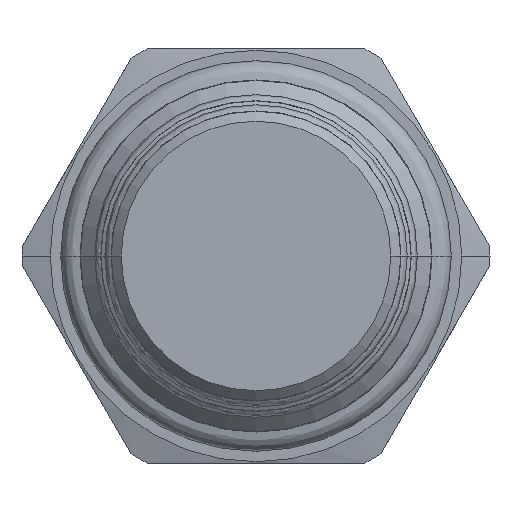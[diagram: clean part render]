
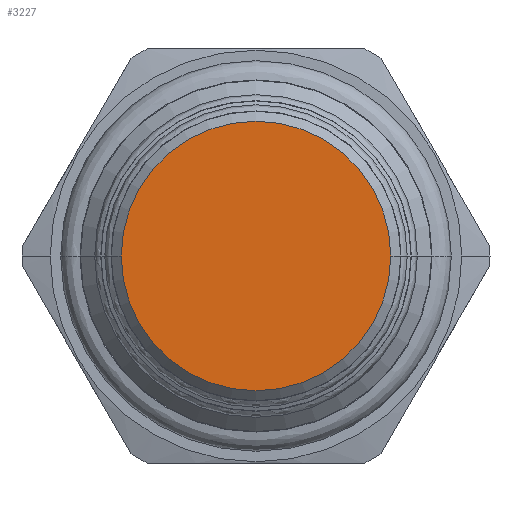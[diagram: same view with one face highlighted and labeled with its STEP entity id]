
A CAD part, front view. The second image highlights one B-rep face of the part: STEP entity #3227.
In plain terms, the highlighted planar face has unit normal (0, -1, 0).
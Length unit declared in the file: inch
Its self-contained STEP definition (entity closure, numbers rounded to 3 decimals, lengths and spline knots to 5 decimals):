
#1231=CARTESIAN_POINT('',(0.,-2.78,0.));
#1232=DIRECTION('',(0.,1.,0.));
#1233=DIRECTION('',(-1.,0.,0.));
#1234=AXIS2_PLACEMENT_3D('',#1231,#1232,#1233);
#1249=CARTESIAN_POINT('',(0.,-2.78,0.));
#1250=DIRECTION('',(0.,-1.,0.));
#1251=DIRECTION('',(-1.,0.,0.));
#1252=AXIS2_PLACEMENT_3D('',#1249,#1250,#1251);
#1357=CARTESIAN_POINT('',(-0.406,-2.78,0.));
#1358=CARTESIAN_POINT('',(0.406,-2.78,0.));
#1359=VERTEX_POINT('',#1357);
#1360=VERTEX_POINT('',#1358);
#3217=CARTESIAN_POINT('',(0.,-2.78,0.));
#3218=DIRECTION('',(0.,1.,0.));
#3219=DIRECTION('',(1.,0.,0.));
#3220=AXIS2_PLACEMENT_3D('',#3217,#3218,#3219);
#3221=PLANE('',#3220);
#3223=ORIENTED_EDGE('',*,*,#3222,.F.);
#3224=ORIENTED_EDGE('',*,*,#3207,.T.);
#3225=EDGE_LOOP('',(#3223,#3224));
#3226=FACE_OUTER_BOUND('',#3225,.F.);
#3227=ADVANCED_FACE('',(#3226),#3221,.F.);
#1235=CIRCLE('',#1234,0.406);
#1253=CIRCLE('',#1252,0.406);
#3207=EDGE_CURVE('',#1359,#1360,#1235,.T.);
#3222=EDGE_CURVE('',#1359,#1360,#1253,.T.);
